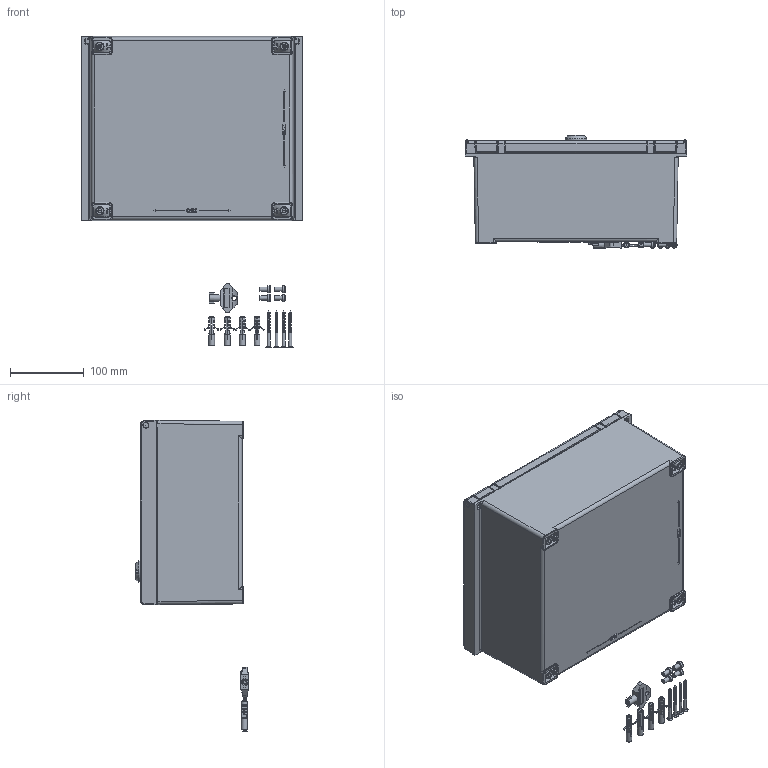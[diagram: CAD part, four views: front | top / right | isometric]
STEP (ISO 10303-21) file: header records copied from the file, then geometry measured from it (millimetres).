
FILE_DESCRIPTION(/* description */ (''),/* implementation_level */ '2;1');
FILE_NAME(/* name */ 'F:\User\Daten\DWG\Anw\AH\temp\2404287_3D.stp',/* time_stamp */ '2022-04-20T12:34:51+02:00',/* author */ ('ahermoni'),/* organization */ ('Fa. Bopla'),/* preprocessor_version */ 'ST-DEVELOPER v18.1',/* originating_system */ 'Autodesk Inventor 2022',/* authorisation */ '');
FILE_SCHEMA (('AUTOMOTIVE_DESIGN { 1 0 10303 214 3 1 1 }'));
Products named in the file (19): 2404287_3D; Unterteil; Oberteil; PS 325 Tür; Halter; Schraube4; Scheibe; Schloss; Mutter; Rahmen; Fensterscheibe; Kleberahmen; Zubehör; Schraube2; Dübel; Schlüssel; Schraube1; Achse; Gewindeeinsatz M6x8
Assembly tree (31 placements, depth 3):
  2404287_3D
    Unterteil
    Oberteil
      PS 325 Tür
      Halter
      Schraube4
      Scheibe
      Schloss
      Mutter
      Rahmen
      Fensterscheibe
      Kleberahmen
    Zubehör
      Schraube2  x4
      Dübel  x4
      Schlüssel
      Schraube1  x4
    Achse  x2
    Gewindeeinsatz M6x8  x4
Bounding box: 300 x 154.25 x 422.16 mm (x, y, z)
Volume: 1186436.2 mm3; surface area: 803910.4 mm2
Topology: 33 solids, 43 shells, 3545 faces, 8866 edges, 5497 vertices
Faces by surface type: plane 1183, cylinder 1138, bspline 808, cone 167, torus 145, sphere 104
Full cylindrical faces by diameter (mm): 2 x1, 2.62 x56, 3 x15, 3.7 x1, 4 x7, 4.5 x5, 5 x5, 5.4 x4, 6 x9, 6.2 x4, 7 x4, 7.3 x12, 8 x6, 8.5 x1, 9 x1, 10 x5, 10.2 x1, 12 x4, 14 x1, 14.2 x1, 18.5 x1, 19.8 x1, 21 x1, 22 x2, 23 x1, 27 x1, 29 x2
Entity records: 145430 total; most frequent: CARTESIAN_POINT 81706, ORIENTED_EDGE 13746, DIRECTION 12461, EDGE_CURVE 6877, AXIS2_PLACEMENT_3D 4610, VERTEX_POINT 4203, LINE 3241, VECTOR 3241
